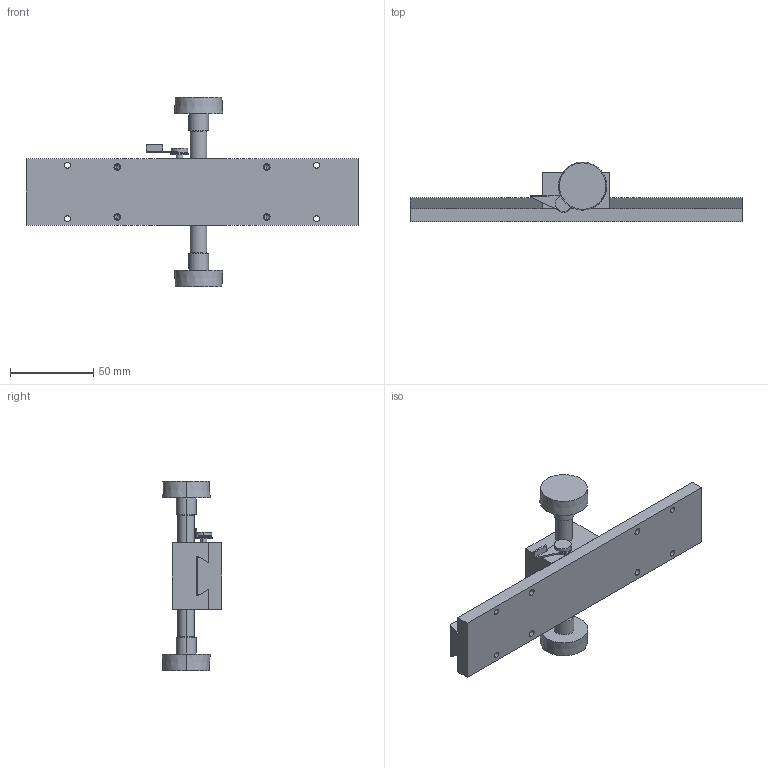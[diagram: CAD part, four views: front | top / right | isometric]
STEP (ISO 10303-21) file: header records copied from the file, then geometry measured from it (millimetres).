
FILE_DESCRIPTION (( 'STEP AP203' ), '1' );
FILE_NAME ('LS-414WL2.STEP', '2018-05-15T04:49:20', ( '' ), ( '' ), 'SwSTEP 2.0', 'SolidWorks 2016', '' );
FILE_SCHEMA (( 'CONFIG_CONTROL_DESIGN' ));
Length unit declared in the file: millimetre
Products named in the file (3): LS-414WL2-1; LS-414WL2-2; LS-414WL2
Assembly tree (2 placements, depth 2):
  LS-414WL2
    LS-414WL2-1
    LS-414WL2-2
Bounding box: 200 x 36 x 114 mm (x, y, z)
Volume: 136144.7 mm3; surface area: 39755.5 mm2
Topology: 2 solids, 2 shells, 175 faces, 402 edges, 247 vertices
Faces by surface type: cylinder 82, plane 65, cone 28
Entity records: 5128 total; most frequent: DIRECTION 913, CARTESIAN_POINT 805, ORIENTED_EDGE 756, EDGE_CURVE 378, AXIS2_PLACEMENT_3D 355, VERTEX_POINT 247, EDGE_LOOP 223, LINE 203
